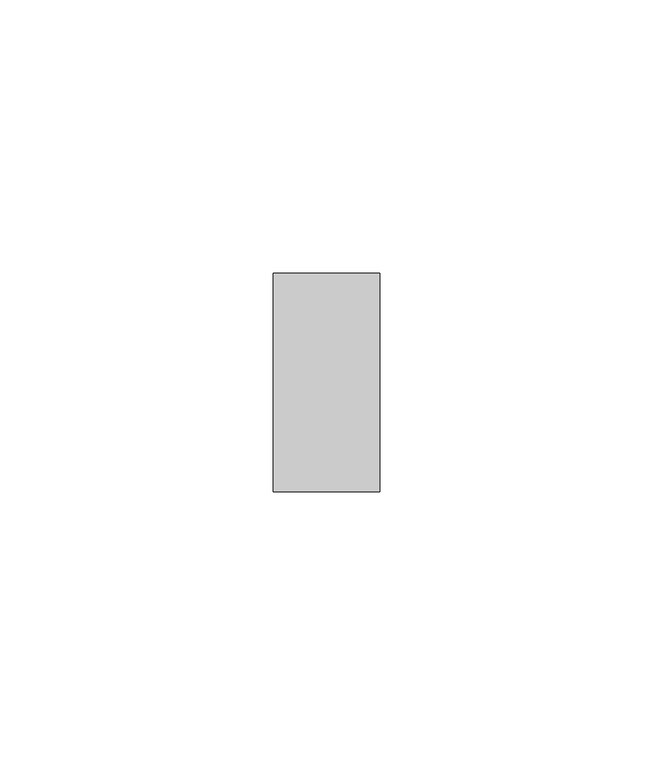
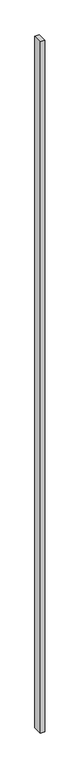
"""IFC4 building model written with IfcOpenShell, lengths in millimetres: plate geometry, Vitré."""

from ifc_helpers import new_model, si_unit, origin, origin_with_axes, place, context, project, spatial, polyline, outline, extrude, source, transform, mapped, element, save


def plate_4773bf2d(model_context):
    return source(origin(), model_context, "Body", "SweptSolid", [
        extrude(outline(polyline([(-9.7366049, -20.0), (-9.7366049, 20.0), (9.7366049, 20.0), (9.7366049, -20.0), (-9.7366049, -20.0)])), origin_with_axes(), (0.0, 0.0, 1.0), 3125.0),
    ])


if __name__ == "__main__":
    model = new_model("IFC4")
    model_context = context("Model", 3, world=origin())
    ifc_project = project(units=[si_unit("LENGTHUNIT", "METRE", prefix="MILLI")], contexts=[model_context])
    site = spatial("IfcSite", under=ifc_project)
    building = spatial("IfcBuilding", under=site)
    placement = place(None, origin())
    plate_shape = plate_4773bf2d(model_context)
    element("IfcPlate", 1, ObjectType="Vitré", at=placement, inside=building, context=model_context, shape_type="MappedRepresentation", body=[
        mapped(plate_shape, transform((0.0, 0.0, 0.0), x_axis=(1.0, 0.0, 0.0), y_axis=(0.0, 1.0, 0.0), z_axis=(0.0, 0.0, 1.0))),
    ])
    save(model, "model.ifc")
